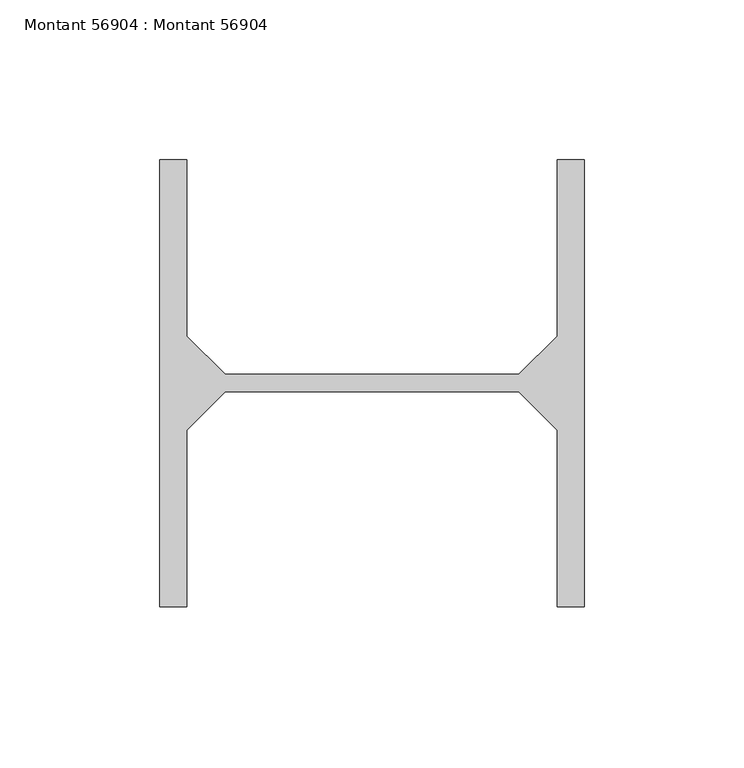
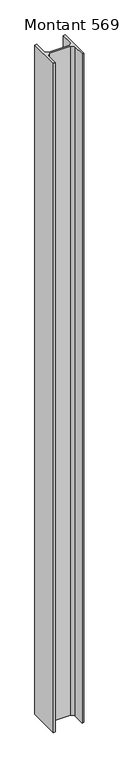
"""IFC4 building model written with IfcOpenShell, lengths in millimetres: beam geometry, Montant 56904 : Montant 56904."""

from ifc_helpers import new_model, si_unit, frame, origin, place, context, project, spatial, polyline, outline, extrude, source, transform, mapped, element, save


def montant_56904_montant_56904_6c301641(model_context):
    return source(origin(), model_context, "Body", "SweptSolid", [
        extrude(outline(polyline([(-168.0000001, -16251.25), (-168.0000001, -16306.5), (-176.5000001, -16306.5), (-176.5000001, -16166.5), (-168.0000001, -16166.5), (-168.0000001, -16221.75), (-156.0000001, -16233.75), (-64.0000001, -16233.75), (-52.0000001, -16221.75), (-52.0000001, -16166.5), (-43.5000001, -16166.5), (-43.5000001, -16306.5), (-52.0000001, -16306.5), (-52.0000001, -16251.25), (-64.0000001, -16239.25), (-156.0000001, -16239.25), (-168.0000001, -16251.25)])), frame((0.0, 0.0, 5333.0), z_axis=(0.0, 0.0, 1.0), x_axis=(1.0, 0.0, 0.0)), (0.0, 0.0, 1.0), 3084.0),
    ])


if __name__ == "__main__":
    model = new_model("IFC4")
    model_context = context("Model", 3, world=origin())
    ifc_project = project(units=[si_unit("LENGTHUNIT", "METRE", prefix="MILLI")], contexts=[model_context])
    site = spatial("IfcSite", under=ifc_project)
    building = spatial("IfcBuilding", under=site)
    placement = place(None, origin())
    montant_56904_montant_56904_shape = montant_56904_montant_56904_6c301641(model_context)
    element("IfcBeam", 1, ObjectType="Montant 56904 : Montant 56904", at=placement, inside=building, context=model_context, shape_type="MappedRepresentation", body=[
        mapped(montant_56904_montant_56904_shape, transform((0.0, 0.0, 0.0), x_axis=(1.0, 0.0, 0.0), y_axis=(0.0, 1.0, 0.0), z_axis=(0.0, 0.0, 1.0))),
    ])
    save(model, "model.ifc")
